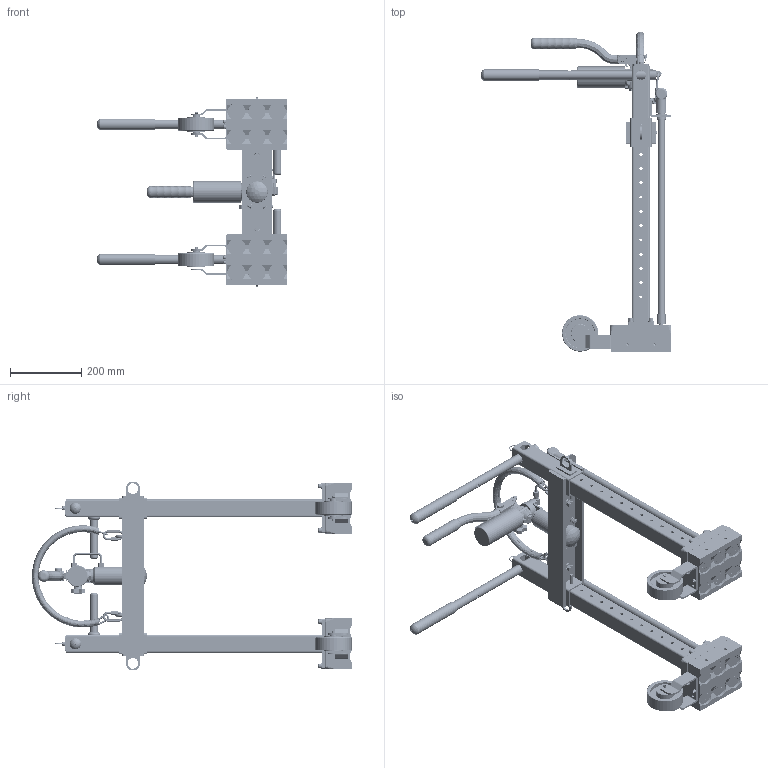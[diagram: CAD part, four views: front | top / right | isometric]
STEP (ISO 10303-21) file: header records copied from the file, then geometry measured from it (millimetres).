
FILE_DESCRIPTION (( 'STEP AP203' ), '1' );
FILE_NAME ('8800605_p.STEP', '2020-03-03T22:13:33', ( '' ), ( '' ), 'SwSTEP 2.0', 'SolidWorks 2018', '' );
FILE_SCHEMA (( 'CONFIG_CONTROL_DESIGN' ));
Products named in the file (1): 8800605_p
Bounding box: 535.32 x 897.55 x 530 mm (x, y, z)
Surface area: 2272358.4 mm2 (no closed solid volume)
Topology: 0 solids, 205 shells, 28409 faces, 70049 edges, 43455 vertices
Faces by surface type: plane 8429, cylinder 6680, bspline 5955, cone 5450, torus 1848, sphere 47
Entity records: 1187917 total; most frequent: CARTESIAN_POINT 565582, ORIENTED_EDGE 139782, DIRECTION 111123, EDGE_CURVE 69891, VERTEX_POINT 43455, AXIS2_PLACEMENT_3D 37555, LINE 36013, VECTOR 36013
